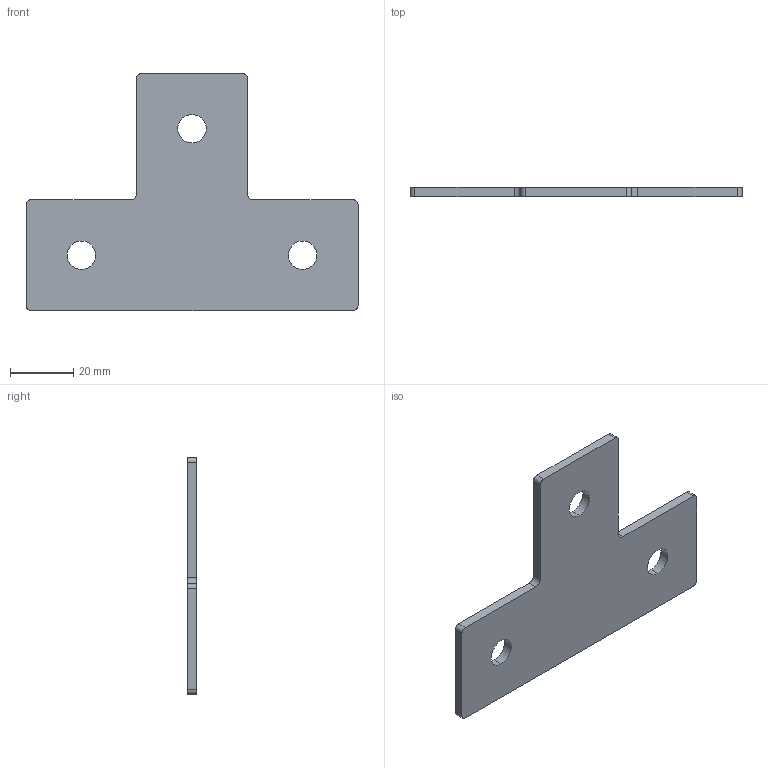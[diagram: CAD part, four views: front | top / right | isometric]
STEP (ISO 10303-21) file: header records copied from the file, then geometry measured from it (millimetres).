
FILE_DESCRIPTION (( 'STEP AP203' ), '1' );
FILE_NAME ('DSB75105-8.STEP', '2018-11-27T07:22:10', ( '' ), ( '' ), 'SwSTEP 2.0', 'SolidWorks 2012', '' );
FILE_SCHEMA (( 'CONFIG_CONTROL_DESIGN' ));
Length unit declared in the file: millimetre
Products named in the file (1): DSB75105-8
Bounding box: 105 x 3 x 75 mm (x, y, z)
Volume: 14648.9 mm3; surface area: 11083.7 mm2
Topology: 1 solids, 1 shells, 24 faces, 66 edges, 44 vertices
Faces by surface type: cylinder 14, plane 10
Entity records: 867 total; most frequent: DIRECTION 144, CARTESIAN_POINT 135, ORIENTED_EDGE 132, EDGE_CURVE 66, AXIS2_PLACEMENT_3D 53, VERTEX_POINT 44, VECTOR 38, LINE 38
